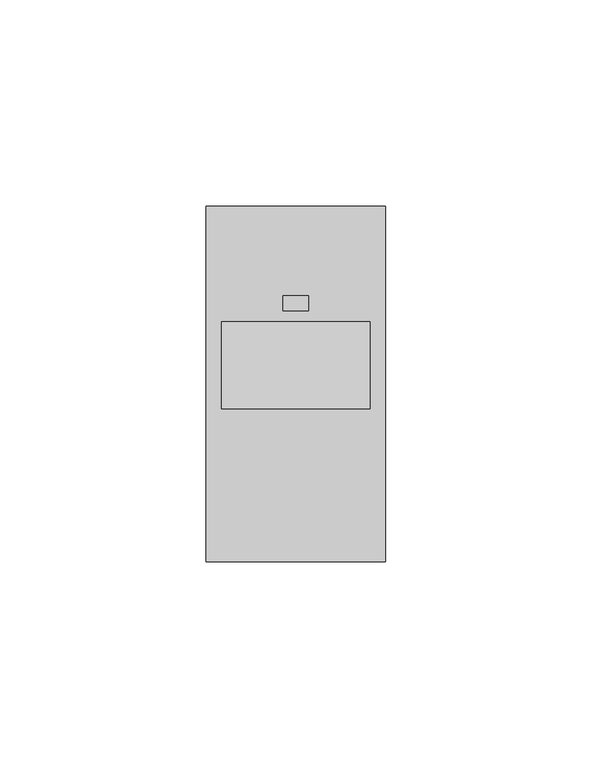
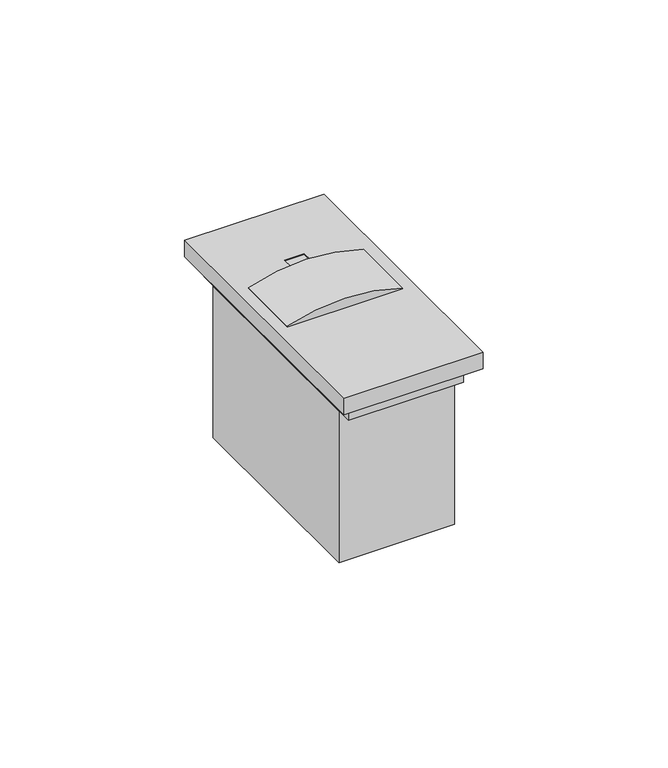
"""IFC4 building model written with IfcOpenShell, lengths in millimetres: switching device geometry, BT_LN-InterruttoreIR_K4432 : Interruttore IR - Art. K4432 - 2M - Cover Sabbia."""

import ifcopenshell
import ifcopenshell.guid

model = None  # the IFC model being written
_history = None  # IfcOwnerHistory: only IFC2X3 demands one
_inside = {}  # id of a spatial element -> (the spatial element, [elements in it])
_under = {}  # id of a project, library or spatial element -> (it, [spatial elements below it])
_declared = {}  # id of a project -> (the project, [libraries it declares])
_typed = {}  # id of a type object -> (the type object, [elements of that type])
_made_of = {}  # id of a material, layer set ... -> (it, [elements and type objects made of it])


def new_model(schema):
    """Start an empty IFC model of exactly this schema.

    Asked for "IFC4X3", IfcOpenShell would pick the latest addendum, in which some entities
    have other attributes; the version numbers below select the first issue.
    IFC2X3 requires an IfcOwnerHistory on every rooted entity: one is made here for all.
    """
    global model, _history
    if schema == "IFC4X3":
        model = ifcopenshell.file(schema_version=(4, 3, 0, 0))
    else:
        model = ifcopenshell.file(schema=schema)
    _inside.clear()
    _under.clear()
    _declared.clear()
    _typed.clear()
    _made_of.clear()
    _history = None
    if model.schema == "IFC2X3":
        org = make("IfcOrganization", Name="unknown")
        user = make(
            "IfcPersonAndOrganization",
            ThePerson=make("IfcPerson", FamilyName="unknown"),
            TheOrganization=org,
        )
        app = make(
            "IfcApplication",
            ApplicationDeveloper=org,
            Version="unknown",
            ApplicationFullName="unknown",
            ApplicationIdentifier="unknown",
        )
        _history = make(
            "IfcOwnerHistory",
            OwningUser=user,
            OwningApplication=app,
            ChangeAction="ADDED",
            CreationDate=0,
        )
    return model


def make(cls, **values):
    """One entity of the class cls with the attributes given. An attribute that is None is left unset."""
    return model.create_entity(
        cls, **{name: value for name, value in values.items() if value is not None}
    )


def rooted(cls, **values):
    """An entity with a GlobalId (a new one), such as an element, a storey or a relation."""
    return make(cls, GlobalId=ifcopenshell.guid.new(), OwnerHistory=_history, **values)


def si_unit(unit_type, name, prefix=None):
    """IfcSIUnit, for example si_unit("LENGTHUNIT", "METRE", prefix="MILLI")."""
    return make("IfcSIUnit", UnitType=unit_type, Prefix=prefix, Name=name)


def assignment(units):
    """IfcUnitAssignment: the units of a project."""
    return None if units is None else make("IfcUnitAssignment", Units=units)


def point(xyz):
    """IfcCartesianPoint."""
    return None if xyz is None else make("IfcCartesianPoint", Coordinates=xyz)


def direction(xyz):
    """IfcDirection."""
    return None if xyz is None else make("IfcDirection", DirectionRatios=xyz)


def frame(location, z_axis=None, x_axis=None):
    """IfcAxis2Placement3D, a coordinate frame: its origin and axes. An axis left out is left unset."""
    return make(
        "IfcAxis2Placement3D",
        Location=point(location),
        Axis=direction(z_axis),
        RefDirection=direction(x_axis),
    )


def frame_2d(location, x_axis=None):
    """IfcAxis2Placement2D, a coordinate frame in the plane: its origin and x axis."""
    return make(
        "IfcAxis2Placement2D", Location=point(location), RefDirection=direction(x_axis)
    )


def origin():
    """The frame at (0, 0, 0) with its axes left unset."""
    return frame((0.0, 0.0, 0.0))


def origin_with_axes():
    """The frame at (0, 0, 0) with the z axis (0, 0, 1) and the x axis (1, 0, 0) written out."""
    return frame((0.0, 0.0, 0.0), z_axis=(0.0, 0.0, 1.0), x_axis=(1.0, 0.0, 0.0))


def place(relative_to, where):
    """IfcLocalPlacement: puts the frame where relative to a parent placement (None: the world)."""
    return make(
        "IfcLocalPlacement", PlacementRelTo=relative_to, RelativePlacement=where
    )


def context(
    kind, dimensions, precision=None, world=None, true_north=None, identifier=None
):
    """IfcGeometricRepresentationContext, for example the 3D "Model" context."""
    return make(
        "IfcGeometricRepresentationContext",
        ContextIdentifier=identifier,
        ContextType=kind,
        CoordinateSpaceDimension=dimensions,
        Precision=precision,
        WorldCoordinateSystem=world,
        TrueNorth=true_north,
    )


def project(units=None, contexts=None):
    """IfcProject with its units and contexts."""
    return rooted(
        "IfcProject",
        Name="project",
        RepresentationContexts=contexts,
        UnitsInContext=assignment(units),
    )


def spatial(cls, under=None, at=None, **own):
    """A site, building, storey or space (cls), placed at a placement, below another one or the project."""
    s = rooted(cls, ObjectPlacement=at, **own)
    if under is not None:
        _under.setdefault(under.id(), (under, []))[1].append(s)
    return s


def polyline(points):
    """IfcPolyline through the points."""
    return make("IfcPolyline", Points=[point(p) for p in points])


def circle_curve(where, radius):
    """IfcCircle in the frame where."""
    return make("IfcCircle", Position=where, Radius=radius)


def trimmed(basis, trim1, trim2, sense, master):
    """IfcTrimmedCurve: the piece of a basis curve between two trims."""
    return make(
        "IfcTrimmedCurve",
        BasisCurve=basis,
        Trim1=trim1,
        Trim2=trim2,
        SenseAgreement=sense,
        MasterRepresentation=master,
    )


def segment(curve, same_sense, transition):
    """IfcCompositeCurveSegment."""
    return make(
        "IfcCompositeCurveSegment",
        Transition=transition,
        SameSense=same_sense,
        ParentCurve=curve,
    )


def composite_curve(segments, self_intersect=None):
    """IfcCompositeCurve: segments joined end to end."""
    return make("IfcCompositeCurve", Segments=segments, SelfIntersect=self_intersect)


def outline(outer, holes=None, kind="AREA"):
    """IfcArbitraryClosedProfileDef: a profile drawn as a closed curve; with holes, ...WithVoids."""
    if holes is None:
        return make("IfcArbitraryClosedProfileDef", ProfileType=kind, OuterCurve=outer)
    return make(
        "IfcArbitraryProfileDefWithVoids",
        ProfileType=kind,
        OuterCurve=outer,
        InnerCurves=holes,
    )


def extrude(swept, where, along, depth):
    """IfcExtrudedAreaSolid: the profile swept, set in the frame where, extruded along a direction by depth."""
    return make(
        "IfcExtrudedAreaSolid",
        SweptArea=swept,
        Position=where,
        ExtrudedDirection=direction(along),
        Depth=depth,
    )


def faces_of(points, faces, orient=None, outer=None):
    """IfcFace entities. A face is a list of loops; a loop is a list of indices into points, from 0.

    orient and outer hold one flag for each loop. By default every Orientation is true, the
    first loop of a face is its IfcFaceOuterBound and the others are IfcFaceBound.
    """
    made = []
    for i, loops in enumerate(faces):
        bounds = []
        for j, loop in enumerate(loops):
            is_outer = j == 0 if outer is None else outer[i][j]
            bounds.append(
                make(
                    "IfcFaceOuterBound" if is_outer else "IfcFaceBound",
                    Bound=make("IfcPolyLoop", Polygon=[points[k] for k in loop]),
                    Orientation=True if orient is None else orient[i][j],
                )
            )
        made.append(make("IfcFace", Bounds=bounds))
    return made


def faceted_brep(points, faces, orient=None, outer=None, voids=None):
    """IfcFacetedBrep: a solid bounded by flat faces; with voids (closed shells), ...WithVoids."""
    shared = [point(p) for p in points]
    hull = make("IfcClosedShell", CfsFaces=faces_of(shared, faces, orient, outer))
    if voids is None:
        return make("IfcFacetedBrep", Outer=hull)
    return make(
        "IfcFacetedBrepWithVoids",
        Outer=hull,
        Voids=[
            make(cls, CfsFaces=faces_of(shared, fs, o, b)) for cls, fs, o, b in voids
        ],
    )


def shape(context_of_items, identifier, shape_type, items):
    """IfcShapeRepresentation: the items that make up one representation, for example the "Body"."""
    return make(
        "IfcShapeRepresentation",
        ContextOfItems=context_of_items,
        RepresentationIdentifier=identifier,
        RepresentationType=shape_type,
        Items=items,
    )


def source(mapping_origin, context_of_items, identifier, shape_type, items):
    """IfcRepresentationMap: a shape defined once, which mapped items show again and again."""
    return make(
        "IfcRepresentationMap",
        MappingOrigin=mapping_origin,
        MappedRepresentation=shape(context_of_items, identifier, shape_type, items),
    )


def transform(
    local_origin,
    x_axis=None,
    y_axis=None,
    z_axis=None,
    scale=None,
    scale2=None,
    scale3=None,
    uniform=True,
):
    """IfcCartesianTransformationOperator3D, or its non-uniform kind. x_axis, y_axis, z_axis: its Axis1, 2, 3."""
    if uniform:
        return make(
            "IfcCartesianTransformationOperator3D",
            Axis1=direction(x_axis),
            Axis2=direction(y_axis),
            LocalOrigin=point(local_origin),
            Scale=scale,
            Axis3=direction(z_axis),
        )
    return make(
        "IfcCartesianTransformationOperator3DnonUniform",
        Axis1=direction(x_axis),
        Axis2=direction(y_axis),
        LocalOrigin=point(local_origin),
        Scale=scale,
        Axis3=direction(z_axis),
        Scale2=scale2,
        Scale3=scale3,
    )


def mapped(mapping_source, mapping_target):
    """IfcMappedItem: shows the shape of a source again, moved by a transform."""
    return make(
        "IfcMappedItem", MappingSource=mapping_source, MappingTarget=mapping_target
    )


def made_of(thing, what):
    """Note that an element or type object is made of a material, layer set ...; save() writes the relation."""
    if what is not None:
        _made_of.setdefault(what.id(), (what, []))[1].append(thing)
    return thing


def element(
    cls,
    number,
    at=None,
    inside=None,
    cuts=None,
    type_object=None,
    material=None,
    context=None,
    identifier="Body",
    shape_type=None,
    held_by="IfcProductDefinitionShape",
    body=None,
    shapes=None,
    **own,
):
    """One element of the class cls, such as IfcWall. Its Tag is "e" and its number.

    at: its placement. inside: the storey or other place that contains it. cuts: it is an
    opening in that element (IfcRelVoidsElement). A single representation is given by context,
    identifier, shape_type and body (its items); several are given by shapes. held_by: the class
    of the entity that holds the representations. save() writes the other relations.
    """
    e = rooted(cls, Tag="e%d" % number, ObjectPlacement=at, **own)
    if body is not None:
        shapes = [shape(context, identifier, shape_type, body)]
    if shapes is not None:
        e.Representation = make(held_by, Representations=shapes)
    if inside is not None:
        _inside.setdefault(inside.id(), (inside, []))[1].append(e)
    if cuts is not None:
        rooted(
            "IfcRelVoidsElement", RelatingBuildingElement=cuts, RelatedOpeningElement=e
        )
    if type_object is not None:
        _typed.setdefault(type_object.id(), (type_object, []))[1].append(e)
    return made_of(e, material)


def aggregate(whole, parts):
    """IfcRelAggregates: a whole, such as a stair, and the parts it consists of."""
    return rooted("IfcRelAggregates", RelatingObject=whole, RelatedObjects=parts)


def save(model, path):
    """Write the relations noted so far, then the file.

    IfcRelAggregates (storeys below a building ...), IfcRelContainedInSpatialStructure (elements
    in a storey), IfcRelDefinesByType, IfcRelAssociatesMaterial and IfcRelDeclares: one each for
    every whole, place, type object, material and project.
    """
    for whole, parts in _under.values():
        aggregate(whole, parts)
    for where, things in _inside.values():
        rooted(
            "IfcRelContainedInSpatialStructure",
            RelatedElements=things,
            RelatingStructure=where,
        )
    for kind, things in _typed.values():
        rooted("IfcRelDefinesByType", RelatedObjects=things, RelatingType=kind)
    for what, things in _made_of.values():
        rooted("IfcRelAssociatesMaterial", RelatedObjects=things, RelatingMaterial=what)
    for by, libraries in _declared.values():
        rooted("IfcRelDeclares", RelatingContext=by, RelatedDefinitions=libraries)
    model.write(path)


def switching_device_739d178a(model_context):
    return source(origin(), model_context, "Body", "SolidModel", [
        extrude(outline(polyline([(-18.0, 39.0), (18.0, 39.0), (18.0, -39.0), (-18.0, -39.0), (-18.0, 39.0)])), frame((0.0, 0.0, 50.0), z_axis=(0.0, 0.0, 1.0), x_axis=(1.0, 0.0, 0.0)), (0.0, 0.0, 1.0), 5.5),
        extrude(outline(polyline([(-18.0, 34.0), (18.0, 34.0), (18.0, -34.0), (-18.0, -34.0), (-18.0, 34.0)])), origin_with_axes(), (0.0, 0.0, 1.0), 50.0),
        extrude(outline(composite_curve([segment(trimmed(circle_curve(frame_2d((8.9197297, 0.0)), 55.0802703), [point((60.9758165, 18.0))], [point((60.9758165, -18.0))], False, "CARTESIAN"), True, "CONTINUOUS"), segment(polyline([(60.9758165, -18.0), (55.5, -18.0), (55.5, 18.0), (60.9758165, 18.0)]), True, "CONTINUOUS")], self_intersect=False)), frame((0.0, -5.988463, 0.0), z_axis=(0.0, 1.0, 0.0), x_axis=(0.0, 0.0, 1.0)), (0.0, 0.0, 1.0), 21.0144386),
        faceted_brep([(-21.7, -43.0, 61.0), (21.7, -43.0, 61.0), (21.7, 43.0, 61.0), (-21.7, 43.0, 61.0), (-18.0, 15.0259756, 61.0), (18.0, 15.0259756, 61.0), (18.0, -5.988463, 61.0), (-18.0, -5.988463, 61.0), (-3.0434663, 21.3362694, 61.0), (3.0434663, 21.3362694, 61.0), (3.0434663, 17.6949214, 61.0), (-3.0434663, 17.6949214, 61.0), (-21.7, -43.0, 55.5), (-21.7, 43.0, 55.5), (21.7, 43.0, 55.5), (21.7, -43.0, 55.5), (3.0434663, 21.3362694, 55.5), (-3.0434663, 21.3362694, 55.5), (-3.0434663, 17.6949214, 55.5), (3.0434663, 17.6949214, 55.5), (18.0, 15.0259756, 56.5112665), (-18.0, 15.0259756, 56.5112665), (-18.0, -5.988463, 56.5112665), (18.0, -5.988463, 56.5112665)], [[[0, 1, 2, 3], [4, 5, 6, 7], [8, 9, 10, 11]], [[12, 13, 14, 15], [16, 17, 18, 19]], [[1, 0, 12, 15]], [[2, 1, 15, 14]], [[3, 2, 14, 13]], [[0, 3, 13, 12]], [[20, 21, 22, 23]], [[21, 20, 5, 4]], [[22, 21, 4, 7]], [[23, 22, 7, 6]], [[20, 23, 6, 5]], [[8, 17, 16, 9]], [[17, 8, 11, 18]], [[18, 11, 10, 19]], [[9, 16, 19, 10]]]),
        extrude(outline(polyline([(-3.0434663, 17.6949214), (-3.0434663, 21.3362694), (3.0434663, 21.3362694), (3.0434663, 17.6949214), (-3.0434663, 17.6949214)])), frame((0.0, 0.0, 56.5112665), z_axis=(0.0, 0.0, 1.0), x_axis=(1.0, 0.0, 0.0)), (0.0, 0.0, 1.0), 4.4887335),
    ])


if __name__ == "__main__":
    model = new_model("IFC4")
    model_context = context("Model", 3, world=origin())
    ifc_project = project(units=[si_unit("LENGTHUNIT", "METRE", prefix="MILLI")], contexts=[model_context])
    site = spatial("IfcSite", under=ifc_project)
    building = spatial("IfcBuilding", under=site)
    placement = place(None, origin())
    switching_device_shape = switching_device_739d178a(model_context)
    element("IfcSwitchingDevice", 1, ObjectType="BT_LN-InterruttoreIR_K4432 : Interruttore IR - Art. K4432 - 2M - Cover Sabbia", at=placement, inside=building, context=model_context, shape_type="MappedRepresentation", body=[
        mapped(switching_device_shape, transform((0.0, 0.0, 0.0), x_axis=(1.0, 0.0, 0.0), y_axis=(0.0, 1.0, 0.0), z_axis=(0.0, 0.0, 1.0))),
    ])
    save(model, "model.ifc")
